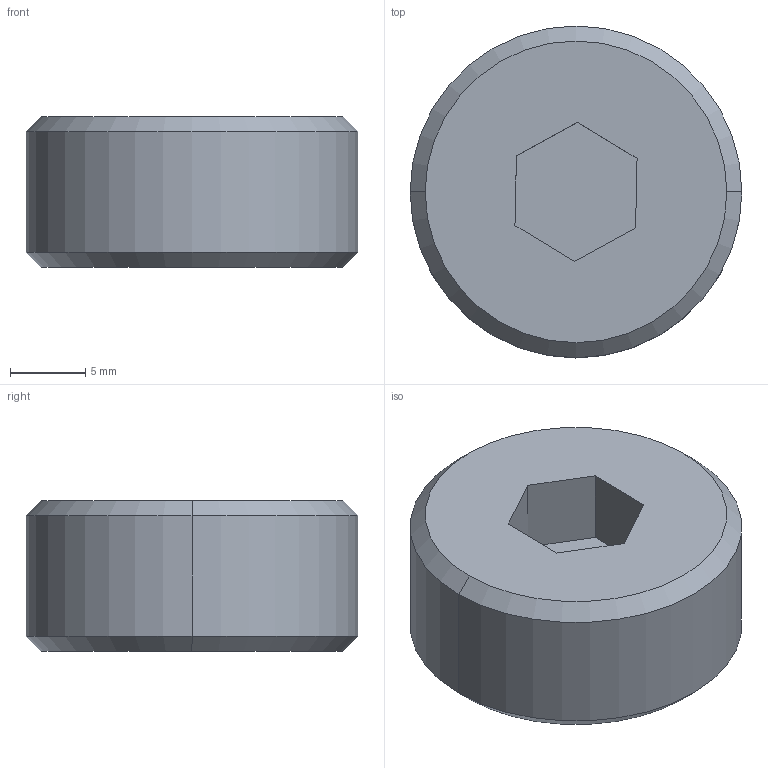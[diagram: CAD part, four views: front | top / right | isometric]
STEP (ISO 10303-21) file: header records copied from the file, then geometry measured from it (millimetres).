
FILE_DESCRIPTION (( 'STEP AP214' ), '1' );
FILE_NAME ('SE15-M22.STEP', '2020-11-02T15:32:37', ( 'August' ), ( '' ), 'SwSTEP 2.0', 'SolidWorks 2018', '' );
FILE_SCHEMA (( 'AUTOMOTIVE_DESIGN' ));
Length unit declared in the file: millimetre
Products named in the file (1): SE15-M22
Bounding box: 22 x 22 x 10 mm (x, y, z)
Volume: 3457.2 mm3; surface area: 1506.4 mm2
Topology: 1 solids, 1 shells, 15 faces, 32 edges, 20 vertices
Faces by surface type: plane 9, cone 4, cylinder 2
Entity records: 436 total; most frequent: DIRECTION 72, CARTESIAN_POINT 68, ORIENTED_EDGE 64, EDGE_CURVE 32, LINE 24, AXIS2_PLACEMENT_3D 24, VECTOR 24, VERTEX_POINT 20
